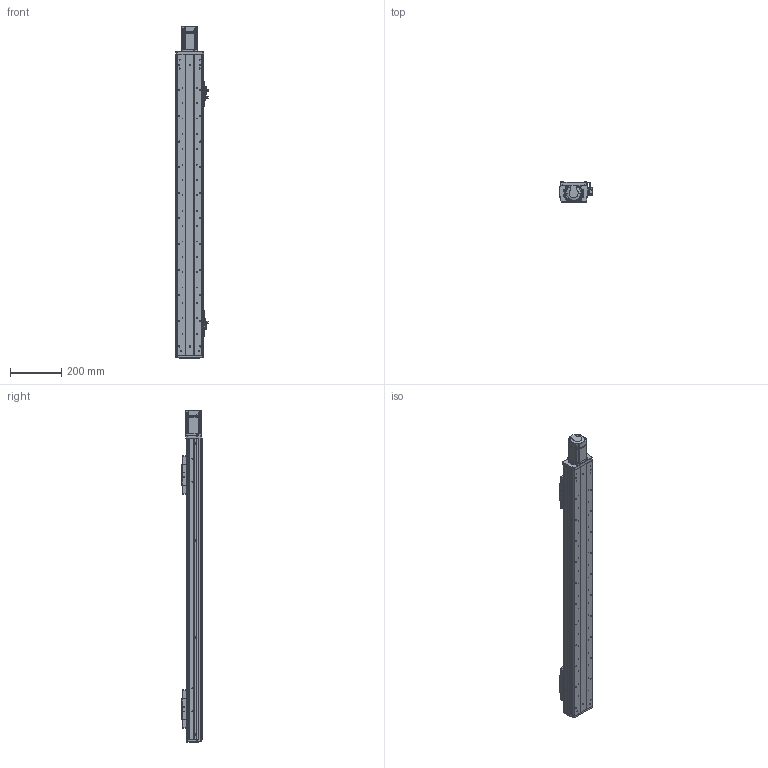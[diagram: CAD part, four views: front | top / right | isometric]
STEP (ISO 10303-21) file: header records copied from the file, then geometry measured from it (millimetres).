
FILE_DESCRIPTION (( 'STEP AP203' ), '1' );
FILE_NAME ('RY100FS-L1610-300-MK(15Ë«¹ì).SLDASM_900.step', '2022-06-22T07:50:20', ( '' ), ( '' ), 'SwSTEP 2.0', 'SolidWorks 2016', '' );
FILE_SCHEMA (( 'CONFIG_CONTROL_DESIGN' ));
Length unit declared in the file: millimetre
Products named in the file (17): 侂狟200W萇儂; RY100F-防尘盖板(优力胶轮); RY100F-綴裔啣; 1; RY100FS-L1610-300-MK(15邧寢).SLDASM_900; RY100FS-双轨螺母座(16丝杆）; 覜茼ん672; RY100FS-300-MK15邧寢祥凄詩湍_900; RY100FS-300-MK15絳寢倰第奻裔啣_900; 滅袉蝶14-35; 滅袉蝶14-24; RY100FS-300-MK15絳寢倰第菁釱_900; 672嫖萇羲壽假蚾釱; RY80俋离覜茼え; RY100FS-15絳寢萇儂假蚾啣(200W PCD70 M4); RY100F-詩湍揤踡輸; RY100FS-双轨铝滑块(优力胶上板）
Assembly tree (27 placements, depth 3):
  RY100FS-L1610-300-MK(15邧寢).SLDASM_900
    RY100FS-300-MK15絳寢倰第菁釱_900
    RY100FS-300-MK15絳寢倰第奻裔啣_900  x2
    RY100FS-300-MK15邧寢祥凄詩湍_900
    侂狟200W萇儂
      1
    RY100F-綴裔啣
    RY100FS-双轨螺母座(16丝杆）  x2
    672嫖萇羲壽假蚾釱  x2
    覜茼ん672  x3
    RY100F-詩湍揤踡輸  x2
    RY100FS-15絳寢萇儂假蚾啣(200W PCD70 M4)
    滅袉蝶14-24  x2
    滅袉蝶14-35
    RY100FS-双轨铝滑块(优力胶上板）  x2
    RY80俋离覜茼え  x3
    RY100F-防尘盖板(优力胶轮)  x2
Bounding box: 126.2 x 78.5 x 1296 mm (x, y, z)
Volume: 2978513.2 mm3; surface area: 1212477.4 mm2
Topology: 26 solids, 26 shells, 2572 faces, 7071 edges, 4558 vertices
Faces by surface type: plane 1169, cylinder 1150, cone 228, bspline 25
Entity records: 60897 total; most frequent: CARTESIAN_POINT 13387, ORIENTED_EDGE 9528, DIRECTION 9435, EDGE_CURVE 4764, AXIS2_PLACEMENT_3D 3318, VERTEX_POINT 3132, LINE 2799, VECTOR 2799
